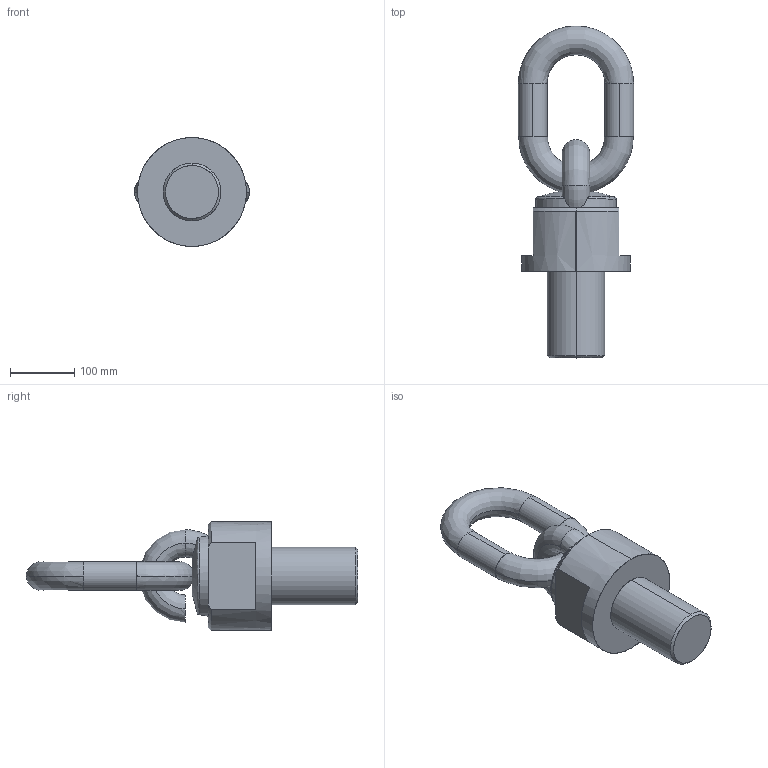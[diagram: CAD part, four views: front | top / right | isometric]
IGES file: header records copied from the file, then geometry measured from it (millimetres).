
Start section: START RECORD GO HERE.
Global section: file name: C80035090135.igs; native system: DASSAULT SYSTEMES CATIA V5 R20 - www.3ds.com; preprocessor: CATIA Version 5 Release 20 ; author: Utente; organization: NB04-ASUS; date: 20200412.152954; units: millimetre
Bounding box: 180 x 518 x 170 mm (x, y, z)
Surface area: 241537.3 mm2 (no closed solid volume)
Topology: 0 solids, 0 shells, 42 faces, 233 edges, 233 vertices
Faces by surface type: revolution 30, extrusion 12
